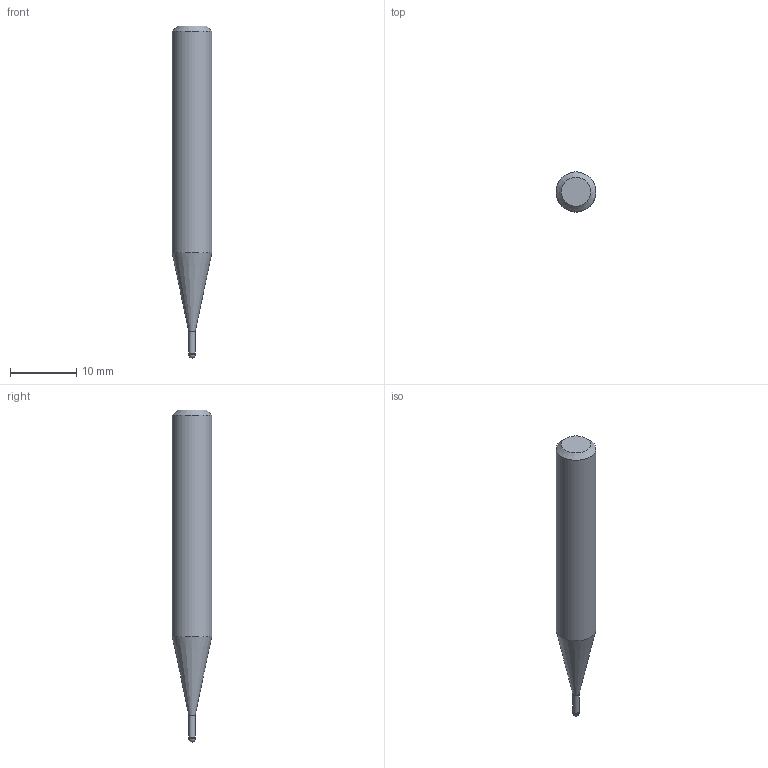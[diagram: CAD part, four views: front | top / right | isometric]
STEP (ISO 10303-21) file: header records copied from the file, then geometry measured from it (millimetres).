
FILE_DESCRIPTION((''),'2;1');
FILE_NAME('C:\Users\nsx150\AppData\Local\Temp\Mastercam 2021\ARV7HD45SN\TEMP.step','2023-06-13T16:35:25',(''),(''),'STEP Write','Mastercam 2021 ... CNC Software, Inc.','');
FILE_SCHEMA(('AUTOMOTIVE_DESIGN'));
Length unit declared in the file: millimetre
Products named in the file (1): None
Bounding box: 6 x 6 x 50 mm (x, y, z)
Volume: 1094.5 mm3; surface area: 807.9 mm2
Topology: 2 solids, 2 shells, 9 faces, 14 edges, 8 vertices
Faces by surface type: plane 3, cylinder 3, cone 2, sphere 1
Full cylindrical faces by diameter (mm): 0.95 x1, 1 x1, 6 x1
Entity records: 211 total; most frequent: DIRECTION 36, CARTESIAN_POINT 25, AXIS2_PLACEMENT_3D 18, ORIENTED_EDGE 14, EDGE_LOOP 14, STYLED_ITEM 12, ADVANCED_FACE 9, FACE_BOUND 8
